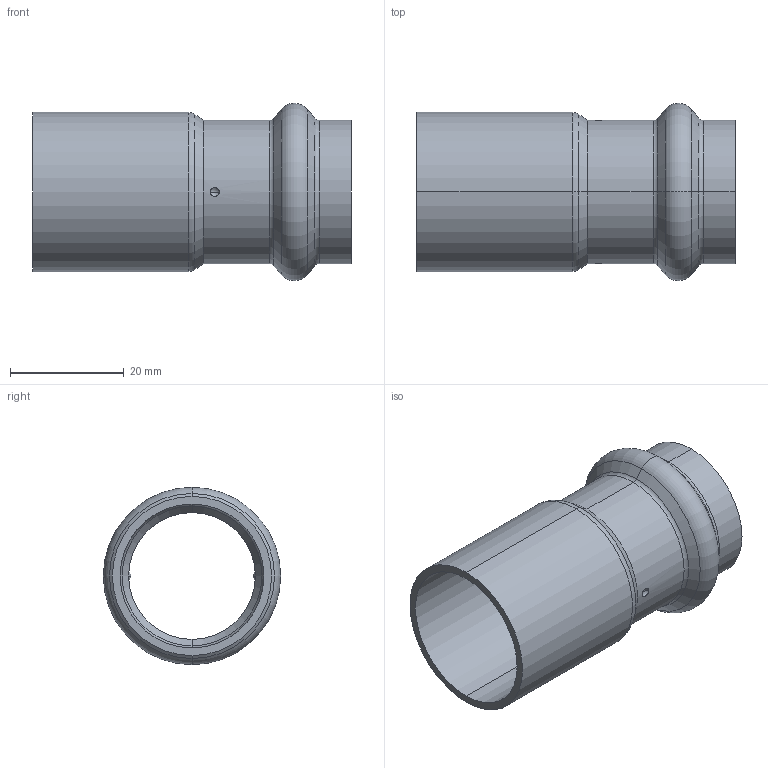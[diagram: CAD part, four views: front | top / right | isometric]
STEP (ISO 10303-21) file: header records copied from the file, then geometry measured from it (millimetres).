
FILE_DESCRIPTION (( 'STEP AP203' ), '1' );
FILE_NAME ('SP5243 28-22.STEP', '2017-04-24T09:05:40', ( '' ), ( '' ), 'SwSTEP 2.0', 'SolidWorks 2016', '' );
FILE_SCHEMA (( 'CONFIG_CONTROL_DESIGN' ));
Length unit declared in the file: millimetre
Products named in the file (1): SP5243 28-22
Bounding box: 56 x 31.2 x 31.2 mm (x, y, z)
Volume: 6677.9 mm3; surface area: 9742.1 mm2
Topology: 1 solids, 1 shells, 50 faces, 100 edges, 56 vertices
Faces by surface type: torus 16, cylinder 12, cone 12, sphere 8, plane 2
Entity records: 1485 total; most frequent: CARTESIAN_POINT 331, DIRECTION 262, ORIENTED_EDGE 200, AXIS2_PLACEMENT_3D 119, EDGE_CURVE 100, CIRCLE 68, EDGE_LOOP 56, VERTEX_POINT 56
